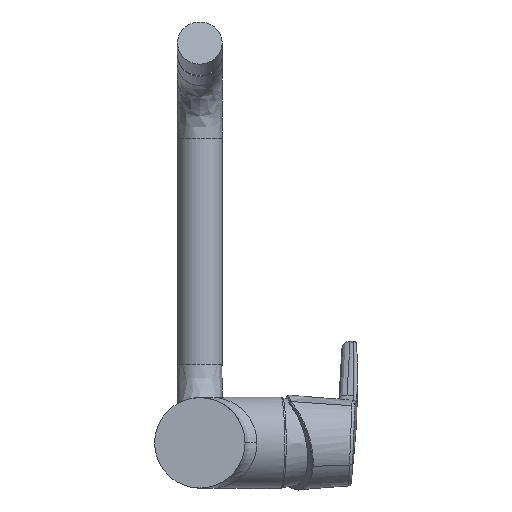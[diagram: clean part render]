
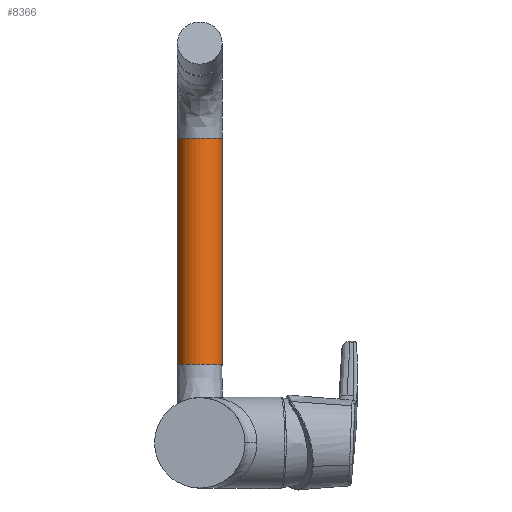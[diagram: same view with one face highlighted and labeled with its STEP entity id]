
A CAD part, front view. The second image highlights one B-rep face of the part: STEP entity #8366.
In plain terms, the highlighted cylindrical face has radius 11.4 mm (diameter 22.8 mm), a full revolution.
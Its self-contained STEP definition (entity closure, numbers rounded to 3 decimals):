
#1162 = CARTESIAN_POINT ( 'NONE',  ( 0., 291.6, 40.028 ) ) ;
#1304 = CARTESIAN_POINT ( 'NONE',  ( 0., 291.6, 155.002 ) ) ;
#2585 = DIRECTION ( 'NONE',  ( 0., 1., 0. ) ) ;
#2725 = DIRECTION ( 'NONE',  ( 0., 0., -1. ) ) ;
#3795 = AXIS2_PLACEMENT_3D ( 'NONE', #1162, #11055, #2585 ) ;
#7273 = CARTESIAN_POINT ( 'NONE',  ( 0., 291.6, 155.002 ) ) ;
#7904 = EDGE_CURVE ( 'NONE', #10984, #10984, #13211, .T. ) ;
#8366 = ADVANCED_FACE ( 'NONE', ( #11876, #11850 ), #9879, .T. ) ;
#8724 = DIRECTION ( 'NONE',  ( 0., 1., 0. ) ) ;
#8971 = CARTESIAN_POINT ( 'NONE',  ( 0., 303., 155.002 ) ) ;
#9879 = CYLINDRICAL_SURFACE ( 'NONE', #13691, 11.4 ) ;
#10397 = CARTESIAN_POINT ( 'NONE',  ( 0., 303., 40.028 ) ) ;
#10968 = VERTEX_POINT ( 'NONE', #10397 ) ;
#10984 = VERTEX_POINT ( 'NONE', #8971 ) ;
#11055 = DIRECTION ( 'NONE',  ( 0., 0., -1. ) ) ;
#11117 = EDGE_CURVE ( 'NONE', #10968, #10968, #11646, .T. ) ;
#11646 = CIRCLE ( 'NONE', #3795, 11.4 ) ;
#11850 = FACE_OUTER_BOUND ( 'NONE', #16449, .T. ) ;
#11876 = FACE_OUTER_BOUND ( 'NONE', #17849, .T. ) ;
#13211 = CIRCLE ( 'NONE', #15603, 11.4 ) ;
#13691 = AXIS2_PLACEMENT_3D ( 'NONE', #1304, #2725, #16672 ) ;
#15488 = ORIENTED_EDGE ( 'NONE', *, *, #7904, .T. ) ;
#15603 = AXIS2_PLACEMENT_3D ( 'NONE', #7273, #17022, #8724 ) ;
#16449 = EDGE_LOOP ( 'NONE', ( #15488 ) ) ;
#16672 = DIRECTION ( 'NONE',  ( 0., 1., 0. ) ) ;
#17022 = DIRECTION ( 'NONE',  ( 0., 0., -1. ) ) ;
#17849 = EDGE_LOOP ( 'NONE', ( #17984 ) ) ;
#17984 = ORIENTED_EDGE ( 'NONE', *, *, #11117, .F. ) ;
